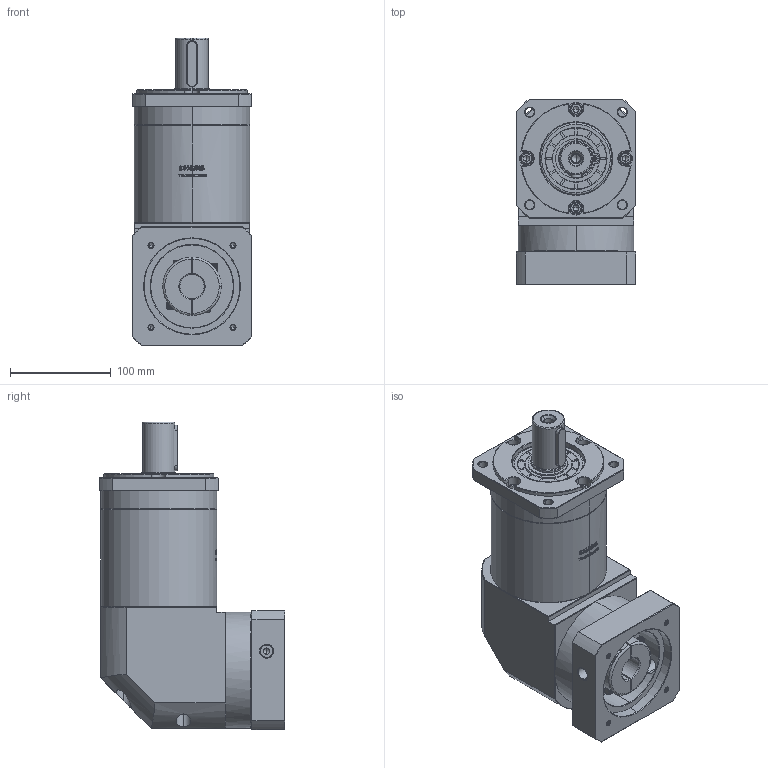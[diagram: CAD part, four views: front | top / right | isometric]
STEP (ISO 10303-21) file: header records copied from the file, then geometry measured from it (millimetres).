
FILE_DESCRIPTION (( 'STEP AP214' ), '1' );
FILE_NAME ('ZFR120A-D32-L3-24-95-115-M6.step', '2023-03-08T08:28:34', ( '' ), ( '' ), 'SwSTEP 2.0', 'SolidWorks 2016', '' );
FILE_SCHEMA (( 'AUTOMOTIVE_DESIGN' ));
Length unit declared in the file: millimetre
Products named in the file (1): ZFR120A-D32-L3-24-95-115-M6
Bounding box: 118 x 183.9 x 305 mm (x, y, z)
Volume: 3403456.4 mm3; surface area: 257313.5 mm2
Topology: 6 solids, 6 shells, 2857 faces, 7625 edges, 4912 vertices
Faces by surface type: plane 1483, bspline 610, cylinder 419, cone 337, torus 8
Entity records: 158342 total; most frequent: CARTESIAN_POINT 61513, ORIENTED_EDGE 15190, DIRECTION 11046, EDGE_CURVE 7595, VERTEX_POINT 4912, LINE 4728, VECTOR 4728, AXIS2_PLACEMENT_3D 3159
